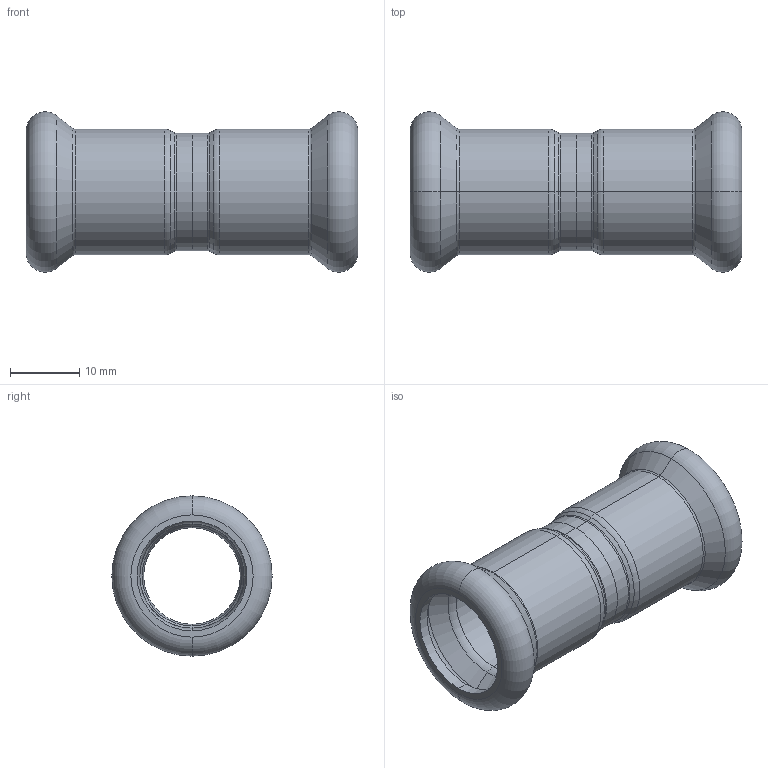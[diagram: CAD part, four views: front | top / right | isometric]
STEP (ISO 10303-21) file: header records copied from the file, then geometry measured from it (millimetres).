
FILE_DESCRIPTION (( 'STEP AP203' ), '1' );
FILE_NAME ('GDA5001.STEP', '2019-01-21T08:47:44', ( '' ), ( '' ), 'SwSTEP 2.0', 'SolidWorks 2015', '' );
FILE_SCHEMA (( 'CONFIG_CONTROL_DESIGN' ));
Length unit declared in the file: millimetre
Products named in the file (1): GDA5001
Bounding box: 48 x 23.2 x 23.2 mm (x, y, z)
Volume: 4321.4 mm3; surface area: 6067.3 mm2
Topology: 2 solids, 2 shells, 74 faces, 148 edges, 80 vertices
Faces by surface type: torus 32, cylinder 20, cone 16, plane 6
Entity records: 1999 total; most frequent: DIRECTION 410, CARTESIAN_POINT 303, ORIENTED_EDGE 296, AXIS2_PLACEMENT_3D 187, EDGE_CURVE 148, CIRCLE 112, VERTEX_POINT 80, EDGE_LOOP 80
